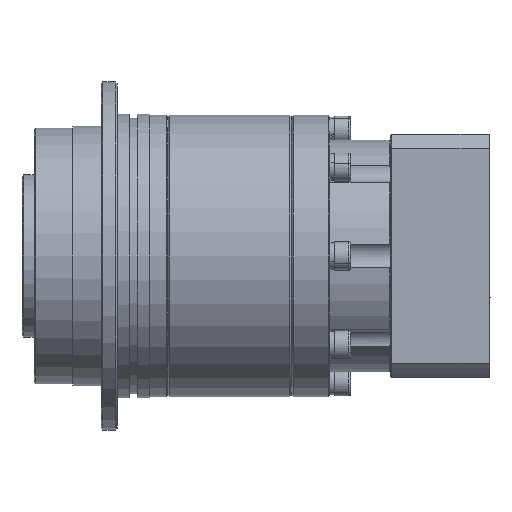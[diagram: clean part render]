
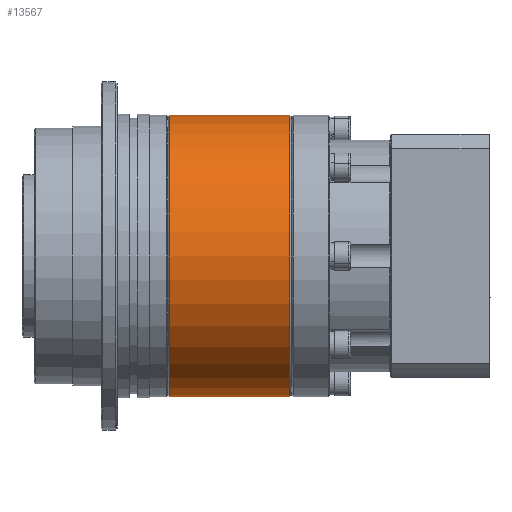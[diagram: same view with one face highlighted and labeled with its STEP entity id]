
A CAD part, front view. The second image highlights one B-rep face of the part: STEP entity #13567.
In plain terms, the highlighted cylindrical face has radius 34.75 mm (diameter 69.5 mm), a partial arc.
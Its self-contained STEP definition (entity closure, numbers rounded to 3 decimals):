
#646 = VERTEX_POINT ( 'NONE', #17473 ) ;
#1192 = CARTESIAN_POINT ( 'NONE',  ( 0., 0., 34.75 ) ) ;
#1465 = CARTESIAN_POINT ( 'NONE',  ( 0.4, -34.75, 0. ) ) ;
#1686 = AXIS2_PLACEMENT_3D ( 'NONE', #9468, #9346, #12471 ) ;
#1881 = DIRECTION ( 'NONE',  ( 0., 0., 1. ) ) ;
#2493 = CIRCLE ( 'NONE', #4008, 34.75 ) ;
#2742 = CARTESIAN_POINT ( 'NONE',  ( 0.4, 0., 0. ) ) ;
#2895 = FACE_OUTER_BOUND ( 'NONE', #8170, .T. ) ;
#3329 = DIRECTION ( 'NONE',  ( -1., 0., 0. ) ) ;
#4008 = AXIS2_PLACEMENT_3D ( 'NONE', #2742, #14811, #10340 ) ;
#4245 = VERTEX_POINT ( 'NONE', #9871 ) ;
#4948 = DIRECTION ( 'NONE',  ( 0., 0., 1. ) ) ;
#5072 = DIRECTION ( 'NONE',  ( 1., 0., 0. ) ) ;
#5241 = CARTESIAN_POINT ( 'NONE',  ( 30.1, 0., -34.75 ) ) ;
#5821 = EDGE_CURVE ( 'NONE', #16301, #14485, #2493, .T. ) ;
#6439 = AXIS2_PLACEMENT_3D ( 'NONE', #10799, #3329, #4948 ) ;
#6638 = CIRCLE ( 'NONE', #18541, 34.75 ) ;
#6872 = CYLINDRICAL_SURFACE ( 'NONE', #6439, 34.75 ) ;
#7211 = EDGE_CURVE ( 'NONE', #646, #16301, #11841, .T. ) ;
#7999 = ORIENTED_EDGE ( 'NONE', *, *, #7211, .T. ) ;
#8170 = EDGE_LOOP ( 'NONE', ( #14766, #14208, #7999, #14953, #17119 ) ) ;
#8886 = CARTESIAN_POINT ( 'NONE',  ( 0.4, 0., 34.75 ) ) ;
#9346 = DIRECTION ( 'NONE',  ( -1., 0., 0. ) ) ;
#9468 = CARTESIAN_POINT ( 'NONE',  ( 30.1, 0., 0. ) ) ;
#9871 = CARTESIAN_POINT ( 'NONE',  ( 0.4, 0., -34.75 ) ) ;
#10056 = EDGE_CURVE ( 'NONE', #18162, #646, #11513, .T. ) ;
#10340 = DIRECTION ( 'NONE',  ( 0., 0., 1. ) ) ;
#10799 = CARTESIAN_POINT ( 'NONE',  ( 0., 0., 0. ) ) ;
#11513 = CIRCLE ( 'NONE', #1686, 34.75 ) ;
#11778 = DIRECTION ( 'NONE',  ( -1., 0., 0. ) ) ;
#11841 = LINE ( 'NONE', #1192, #19389 ) ;
#12471 = DIRECTION ( 'NONE',  ( 0., 0., 1. ) ) ;
#13454 = EDGE_CURVE ( 'NONE', #14485, #4245, #6638, .T. ) ;
#13567 = ADVANCED_FACE ( 'NONE', ( #2895 ), #6872, .T. ) ;
#14208 = ORIENTED_EDGE ( 'NONE', *, *, #10056, .T. ) ;
#14485 = VERTEX_POINT ( 'NONE', #1465 ) ;
#14766 = ORIENTED_EDGE ( 'NONE', *, *, #15814, .F. ) ;
#14811 = DIRECTION ( 'NONE',  ( 1., 0., 0. ) ) ;
#14937 = DIRECTION ( 'NONE',  ( -1., 0., 0. ) ) ;
#14953 = ORIENTED_EDGE ( 'NONE', *, *, #5821, .T. ) ;
#15085 = CARTESIAN_POINT ( 'NONE',  ( 0., 0., -34.75 ) ) ;
#15406 = CARTESIAN_POINT ( 'NONE',  ( 0.4, 0., 0. ) ) ;
#15488 = VECTOR ( 'NONE', #14937, 1000. ) ;
#15814 = EDGE_CURVE ( 'NONE', #18162, #4245, #19017, .T. ) ;
#16301 = VERTEX_POINT ( 'NONE', #8886 ) ;
#17119 = ORIENTED_EDGE ( 'NONE', *, *, #13454, .T. ) ;
#17473 = CARTESIAN_POINT ( 'NONE',  ( 30.1, 0., 34.75 ) ) ;
#18162 = VERTEX_POINT ( 'NONE', #5241 ) ;
#18541 = AXIS2_PLACEMENT_3D ( 'NONE', #15406, #5072, #1881 ) ;
#19017 = LINE ( 'NONE', #15085, #15488 ) ;
#19389 = VECTOR ( 'NONE', #11778, 1000. ) ;
